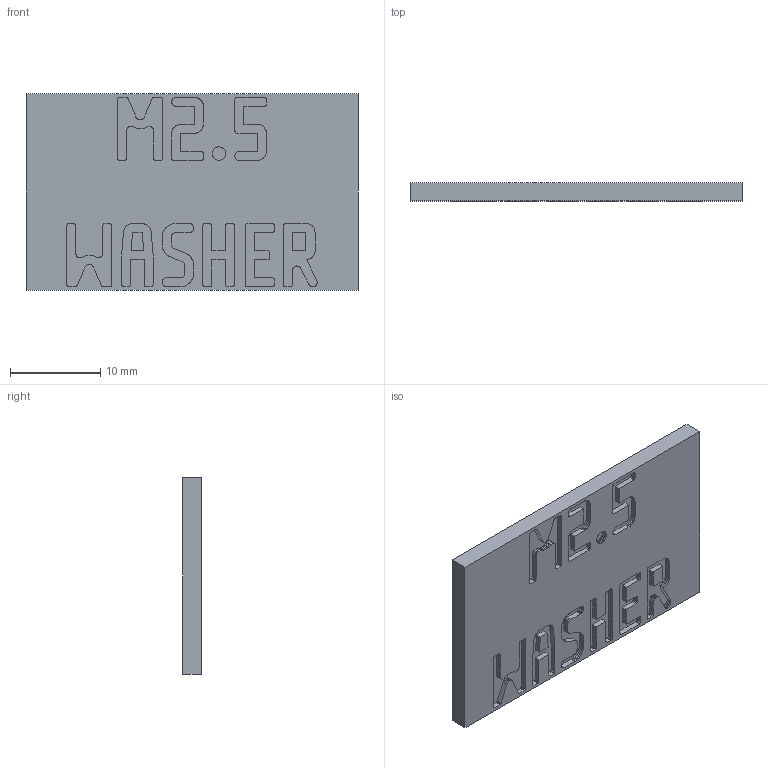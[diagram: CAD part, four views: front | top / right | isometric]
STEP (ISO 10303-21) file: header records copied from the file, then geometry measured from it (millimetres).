
FILE_DESCRIPTION(('Open CASCADE Model'),'2;1');
FILE_NAME('Open CASCADE Shape Model','2026-11-03T17:10:31',('Author'),( 'Open CASCADE'),'Open CASCADE STEP processor 8.0','build123d', 'Unknown');
FILE_SCHEMA(('AUTOMOTIVE_DESIGN { 1 0 10303 214 1 1 1 1 }'));
Length unit declared in the file: millimetre
Products named in the file (2): =>[0:1:1:2]; COMPOUND
Assembly tree (1 placements, depth 2):
  =>[0:1:1:2]
    COMPOUND
Bounding box: 36.8 x 2 x 21.8 mm (x, y, z)
Volume: 1518.7 mm3; surface area: 2006.6 mm2
Topology: 1 solids, 1 shells, 1013 faces, 2997 edges, 1998 vertices
Faces by surface type: plane 1013
Entity records: 72100 total; most frequent: CARTESIAN_POINT 12004, DIRECTION 11021, LINE 8991, VECTOR 8991, ORIENTED_EDGE 5994, PCURVE 5994, DEFINITIONAL_REPRESENTATION 5994, EDGE_CURVE 2997
